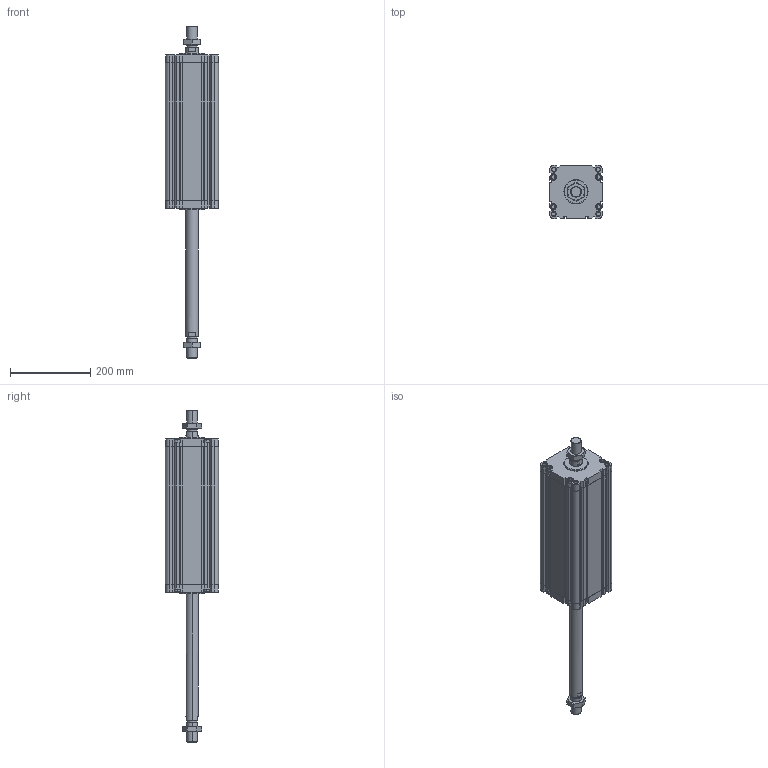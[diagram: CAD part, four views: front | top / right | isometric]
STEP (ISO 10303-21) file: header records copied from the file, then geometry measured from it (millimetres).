
FILE_DESCRIPTION (( 'STEP AP203' ), '1' );
FILE_NAME ('CDVU125-300M-P.STEP', '2020-07-21T16:47:44', ( '' ), ( '' ), 'SwSTEP 2.0', 'SolidWorks 2019', '' );
FILE_SCHEMA (( 'CONFIG_CONTROL_DESIGN' ));
Length unit declared in the file: millimetre
Products named in the file (1): CDVU125-300M-P
Bounding box: 132 x 132 x 825 mm (x, y, z)
Volume: 3351045 mm3; surface area: 544926.9 mm2
Topology: 4 solids, 4 shells, 702 faces, 1892 edges, 1230 vertices
Faces by surface type: plane 338, cylinder 280, cone 68, torus 16
Entity records: 22967 total; most frequent: CARTESIAN_POINT 4709, DIRECTION 3930, ORIENTED_EDGE 3776, EDGE_CURVE 1888, AXIS2_PLACEMENT_3D 1363, VERTEX_POINT 1230, VECTOR 1204, LINE 1204
